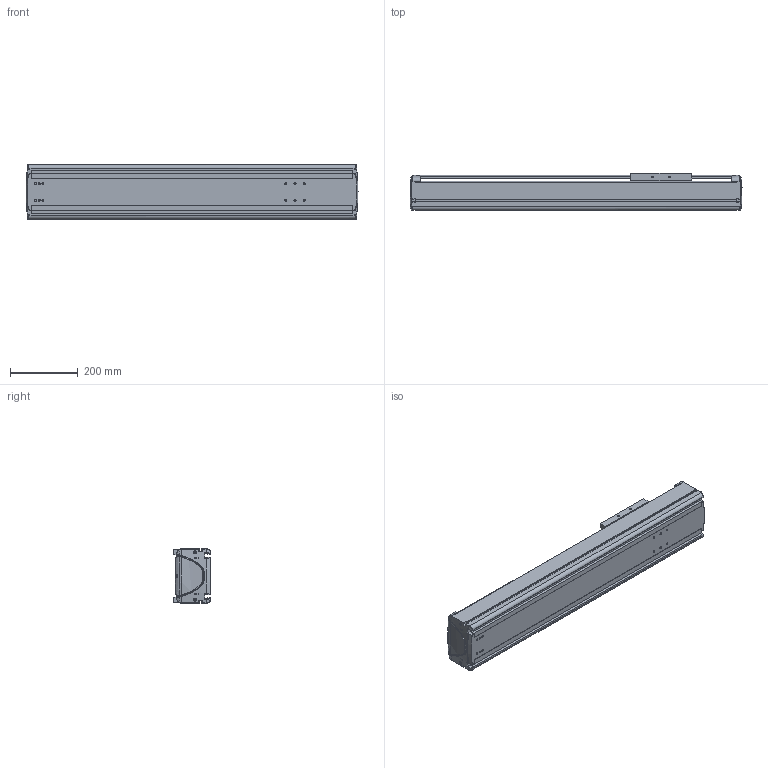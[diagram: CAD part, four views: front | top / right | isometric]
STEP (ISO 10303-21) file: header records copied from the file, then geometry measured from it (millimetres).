
FILE_DESCRIPTION((''),'2;1');
FILE_NAME('BE50G-ST-M_N-60_IGS_PRT','2017-06-18T',(' '),(''),'PRO/ENGINEER BY PARAMETRIC TECHNOLOGY CORPORATION, 2015030','PRO/ENGINEER BY PARAMETRIC TECHNOLOGY CORPORATION, 2015030','');
FILE_SCHEMA(('CONFIG_CONTROL_DESIGN'));
Length unit declared in the file: millimetre
Products named in the file (1): BE50G-ST-M_N-60_IGS_PRT
Bounding box: 979.98 x 110 x 160 mm (x, y, z)
Volume: 4543136.5 mm3; surface area: 1527292.5 mm2
Topology: 2 solids, 75 shells, 1556 faces, 4074 edges, 2605 vertices
Faces by surface type: cylinder 656, plane 613, bspline 102, torus 87, cone 58, sphere 40
Entity records: 53209 total; most frequent: CARTESIAN_POINT 15260, ORIENTED_EDGE 7808, DIRECTION 7794, EDGE_CURVE 4050, AXIS2_PLACEMENT_3D 2892, VERTEX_POINT 2603, VECTOR 2010, LINE 2010
